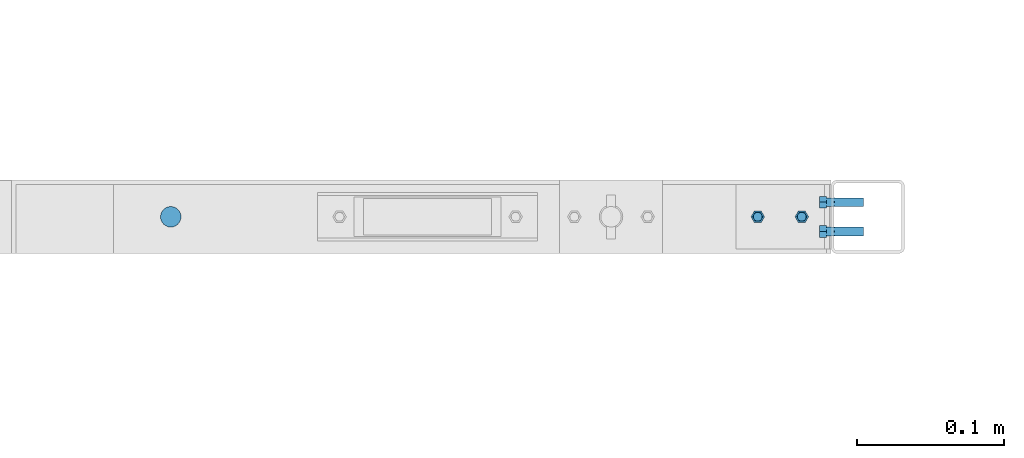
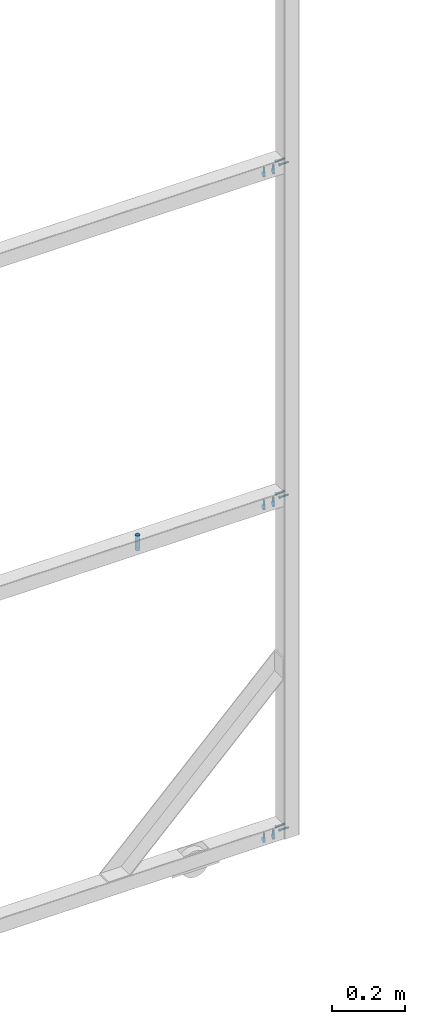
# One storey, part 59 of 91: 10 mechanical fasteners, 1 element without a shape of its own.
"""IFC2X3 building model written with IfcOpenShell, lengths in millimetres."""

from ifc_helpers import new_model, si_unit, frame, origin_with_axes, origin_2d_with_axis, place, context, subcontext, project, spatial, polyline, circle, outline, extrude, source, transform, mapped, material, type_object, element, aggregate, save


model = new_model("IFC2X3")

# Units and contexts
model_context = context("Model", 3, precision=1e-05, world=origin_with_axes())
body_context = subcontext(model_context, "Body", "Model", "MODEL_VIEW")
ifc_project = project(units=[si_unit("LENGTHUNIT", "METRE", prefix="MILLI"), si_unit("AREAUNIT", "SQUARE_METRE"), si_unit("VOLUMEUNIT", "CUBIC_METRE"), si_unit("MASSUNIT", "GRAM", prefix="KILO"), si_unit("TIMEUNIT", "SECOND"), si_unit("PLANEANGLEUNIT", "RADIAN"), si_unit("SOLIDANGLEUNIT", "STERADIAN"), si_unit("THERMODYNAMICTEMPERATUREUNIT", "DEGREE_CELSIUS"), si_unit("LUMINOUSINTENSITYUNIT", "LUMEN")], contexts=[model_context])

# Site, building, storey
site_placement = place(None, origin_with_axes())
site = spatial("IfcSite", under=ifc_project, at=site_placement, Name="Undefined", CompositionType="ELEMENT")
building_placement = place(site_placement, origin_with_axes())
building = spatial("IfcBuilding", under=site, at=building_placement, Name="Undefined", CompositionType="ELEMENT")
storey_placement = place(building_placement, origin_with_axes())
storey = spatial("IfcBuildingStorey", under=building, at=storey_placement, Name="Undefined", CompositionType="ELEMENT", Elevation=0.0)

# Assembly, mechanical fasteners
assembly_placement = place(storey_placement, origin_with_axes())
assembly = element("IfcElementAssembly", 1, at=assembly_placement, inside=storey, Name="Sliding Door Beam", AssemblyPlace="NOTDEFINED", PredefinedType="RIGID_FRAME")
ifc_material_1 = material(Name="TEK_11TPIM")
discrete_accessory_type = type_object("IfcDiscreteAccessoryType", Name="Bolt assembly")
shared_shape_1 = source(origin_with_axes(), body_context, "Body", "SweptSolid", [
    extrude(circle(Radius=3.0, at=origin_2d_with_axis()), frame((0.0, 6.10000000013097, 0.0), z_axis=(0.0, 1.0, 0.0), x_axis=(1.0, 0.0, 0.0)), (0.0, 0.0, 1.0), 3.0),
    extrude(circle(Radius=3.0, at=origin_2d_with_axis()), frame((0.0, 8.9, 0.0), z_axis=(0.0, 1.0, 0.0), x_axis=(1.0, 0.0, 0.0)), (0.0, 0.0, 1.0), 2.1),
    extrude(outline(polyline([(4.61880215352, 0.0), (2.30940107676, 4.00000000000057), (-2.30940107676, 4.00000000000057), (-4.61880215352, 0.0), (-2.30940107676, -4.00000000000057), (2.30940107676, -4.00000000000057), (4.61880215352, 0.0)])), frame((0.0, 1.00000000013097, 0.0), z_axis=(0.0, 1.0, 0.0), x_axis=(1.0, 0.0, 0.0)), (0.0, 0.0, 1.0), 5.0),
    extrude(circle(Radius=3.0, at=origin_2d_with_axis()), frame((0.0, 6.00000000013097, 0.0), z_axis=(0.0, 1.0, 0.0), x_axis=(1.0, 0.0, 0.0)), (0.0, 0.0, 1.0), 25.0),
    extrude(circle(Radius=3.0, at=origin_2d_with_axis()), frame((0.0, 11.0, 0.0), z_axis=(0.0, 1.0, 0.0), x_axis=(1.0, 0.0, 0.0)), (0.0, 0.0, 1.0), 0.1),
    extrude(outline(polyline([(3.46410161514, 0.0), (1.73205080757, 3.00000000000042), (-1.73205080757, 3.00000000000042), (-3.46410161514, 0.0), (-1.73205080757, -3.00000000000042), (1.73205080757, -3.00000000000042), (3.46410161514, 0.0)])), frame((0.0, 11.1000000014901, 0.0), z_axis=(0.0, 1.0, 0.0), x_axis=(1.0, 0.0, 0.0)), (0.0, 0.0, 1.0), 0.1),
])
mechanical_fastener_1_placement = place(assembly_placement, frame((-110610.29, 90380.0, 8.0), z_axis=(0.0, -1.0, 0.0), x_axis=(0.0, 0.0, -1.0)))
mechanical_fastener_1 = element("IfcMechanicalFastener", 2, at=mechanical_fastener_1_placement, type_object=discrete_accessory_type, material=ifc_material_1, Name="Bolt assembly", NominalDiameter=6.0, NominalLength=25.0, context=body_context, shape_type="MappedRepresentation", body=[
    mapped(shared_shape_1, transform((0.0, 0.0, 10.0))),
    mapped(shared_shape_1, transform((0.0, 0.0, -10.0))),
])
mechanical_fastener_2_placement = place(assembly_placement, frame((-110610.29, 90380.0, 1122.33666666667), z_axis=(0.0, -1.0, 0.0), x_axis=(0.0, 0.0, -1.0)))
mechanical_fastener_2 = element("IfcMechanicalFastener", 3, at=mechanical_fastener_2_placement, type_object=discrete_accessory_type, material=ifc_material_1, Name="Bolt assembly", NominalDiameter=6.0, NominalLength=25.0, context=body_context, shape_type="MappedRepresentation", body=[
    mapped(shared_shape_1, transform((0.0, 0.0, 10.0))),
    mapped(shared_shape_1, transform((0.0, 0.0, -10.0))),
])
mechanical_fastener_3_placement = place(assembly_placement, frame((-110610.29, 90380.0, 2236.66333333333), z_axis=(0.0, -1.0, 0.0), x_axis=(0.0, 0.0, -1.0)))
mechanical_fastener_3 = element("IfcMechanicalFastener", 4, at=mechanical_fastener_3_placement, type_object=discrete_accessory_type, material=ifc_material_1, Name="Bolt assembly", NominalDiameter=6.0, NominalLength=25.0, context=body_context, shape_type="MappedRepresentation", body=[
    mapped(shared_shape_1, transform((0.0, 0.0, 10.0))),
    mapped(shared_shape_1, transform((0.0, 0.0, -10.0))),
])
shared_shape_2 = source(origin_with_axes(), body_context, "Body", "SweptSolid", [
    extrude(circle(Radius=3.0, at=origin_2d_with_axis()), frame((0.0, 0.0, 0.0), z_axis=(0.0, 1.0, 0.0), x_axis=(1.0, 0.0, 0.0)), (0.0, 0.0, 1.0), 3.1),
])
mechanical_fastener_4_placement = place(assembly_placement, frame((-110621.29, 90380.0, -14.0), z_axis=(0.0, 1.0, 0.0), x_axis=(-1.0, 0.0, 0.0)))
mechanical_fastener_4 = element("IfcMechanicalFastener", 5, at=mechanical_fastener_4_placement, type_object=discrete_accessory_type, material=ifc_material_1, Name="Bolt assembly", NominalDiameter=6.0, NominalLength=8.0, context=body_context, shape_type="MappedRepresentation", body=[
    mapped(shared_shape_2, transform((0.0, 0.0, 0.0))),
    mapped(shared_shape_2, transform((30.0, 0.0, 0.0))),
])
mechanical_fastener_5_placement = place(assembly_placement, frame((-110621.29, 90380.0, 1100.33666666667), z_axis=(0.0, 1.0, 0.0), x_axis=(-1.0, 0.0, 0.0)))
mechanical_fastener_5 = element("IfcMechanicalFastener", 6, at=mechanical_fastener_5_placement, type_object=discrete_accessory_type, material=ifc_material_1, Name="Bolt assembly", NominalDiameter=6.0, NominalLength=8.0, context=body_context, shape_type="MappedRepresentation", body=[
    mapped(shared_shape_2, transform((0.0, 0.0, 0.0))),
    mapped(shared_shape_2, transform((30.0, 0.0, 0.0))),
])
mechanical_fastener_6_placement = place(assembly_placement, frame((-110621.29, 90380.0, 2214.66333333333), z_axis=(0.0, 1.0, 0.0), x_axis=(-1.0, 0.0, 0.0)))
mechanical_fastener_6 = element("IfcMechanicalFastener", 7, at=mechanical_fastener_6_placement, type_object=discrete_accessory_type, material=ifc_material_1, Name="Bolt assembly", NominalDiameter=6.0, NominalLength=8.0, context=body_context, shape_type="MappedRepresentation", body=[
    mapped(shared_shape_2, transform((0.0, 0.0, 0.0))),
    mapped(shared_shape_2, transform((30.0, 0.0, 0.0))),
])
shared_shape_3 = source(origin_with_axes(), body_context, "Body", "SweptSolid", [
    extrude(circle(Radius=3.0, at=origin_2d_with_axis()), frame((0.0, 0.1, 0.0), z_axis=(0.0, 1.0, 0.0), x_axis=(1.0, 0.0, 0.0)), (0.0, 0.0, 1.0), 2.0),
    extrude(circle(Radius=3.0, at=origin_2d_with_axis()), frame((0.0, 2.90000000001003, 0.0), z_axis=(0.0, 1.0, 0.0), x_axis=(1.0, 0.0, 0.0)), (0.0, 0.0, 1.0), 3.1),
    extrude(outline(polyline([(4.61880215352, 0.0), (2.30940107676, 4.00000000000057), (-2.30940107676, 4.00000000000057), (-4.61880215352, 0.0), (-2.30940107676, -4.00000000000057), (2.30940107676, -4.00000000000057), (4.61880215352, 0.0)])), frame((0.0, -5.0, 0.0), z_axis=(0.0, 1.0, 0.0), x_axis=(1.0, 0.0, 0.0)), (0.0, 0.0, 1.0), 5.0),
    extrude(circle(Radius=3.0, at=origin_2d_with_axis()), frame((0.0, 0.0, 0.0), z_axis=(0.0, 1.0, 0.0), x_axis=(1.0, 0.0, 0.0)), (0.0, 0.0, 1.0), 25.0),
    extrude(circle(Radius=3.0, at=origin_2d_with_axis()), frame((0.0, 6.00000000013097, 0.0), z_axis=(0.0, 1.0, 0.0), x_axis=(1.0, 0.0, 0.0)), (0.0, 0.0, 1.0), 0.1),
    extrude(outline(polyline([(3.46410161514, 0.0), (1.73205080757, 3.00000000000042), (-1.73205080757, 3.00000000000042), (-3.46410161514, 0.0), (-1.73205080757, -3.00000000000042), (1.73205080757, -3.00000000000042), (3.46410161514, 0.0)])), frame((0.0, 6.10000000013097, 0.0), z_axis=(0.0, 1.0, 0.0), x_axis=(1.0, 0.0, 0.0)), (0.0, 0.0, 1.0), 0.1),
])
mechanical_fastener_7_placement = place(assembly_placement, frame((-110621.29, 90380.0, -17.0), z_axis=(0.0, 1.0, 0.0), x_axis=(-1.0, 0.0, 0.0)))
mechanical_fastener_7 = element("IfcMechanicalFastener", 8, at=mechanical_fastener_7_placement, type_object=discrete_accessory_type, material=ifc_material_1, Name="Bolt assembly", NominalDiameter=6.0, NominalLength=25.0, context=body_context, shape_type="MappedRepresentation", body=[
    mapped(shared_shape_3, transform((0.0, 0.0, 0.0))),
    mapped(shared_shape_3, transform((30.0, 0.0, 0.0))),
])
mechanical_fastener_8_placement = place(assembly_placement, frame((-110621.29, 90380.0, 1097.33666666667), z_axis=(0.0, 1.0, 0.0), x_axis=(-1.0, 0.0, 0.0)))
mechanical_fastener_8 = element("IfcMechanicalFastener", 9, at=mechanical_fastener_8_placement, type_object=discrete_accessory_type, material=ifc_material_1, Name="Bolt assembly", NominalDiameter=6.0, NominalLength=25.0, context=body_context, shape_type="MappedRepresentation", body=[
    mapped(shared_shape_3, transform((0.0, 0.0, 0.0))),
    mapped(shared_shape_3, transform((30.0, 0.0, 0.0))),
])
mechanical_fastener_9_placement = place(assembly_placement, frame((-110621.29, 90380.0, 2211.66333333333), z_axis=(0.0, 1.0, 0.0), x_axis=(-1.0, 0.0, 0.0)))
mechanical_fastener_9 = element("IfcMechanicalFastener", 10, at=mechanical_fastener_9_placement, type_object=discrete_accessory_type, material=ifc_material_1, Name="Bolt assembly", NominalDiameter=6.0, NominalLength=25.0, context=body_context, shape_type="MappedRepresentation", body=[
    mapped(shared_shape_3, transform((0.0, 0.0, 0.0))),
    mapped(shared_shape_3, transform((30.0, 0.0, 0.0))),
])
ifc_material_2 = material(Name="8.8S")
shared_shape_4 = source(origin_with_axes(), body_context, "Body", "SweptSolid", [
    extrude(circle(Radius=7.0, at=origin_2d_with_axis()), frame((0.0, 0.0033333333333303, 0.0), z_axis=(0.0, 1.0, 0.0), x_axis=(1.0, 0.0, 0.0)), (0.0, 0.0, 1.0), 50.1),
])
mechanical_fastener_10_placement = place(assembly_placement, frame((-111051.293767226, 90380.0, 1147.34), z_axis=(1.0, 0.0, 0.0), x_axis=(0.0, -1.0, 0.0)))
mechanical_fastener_10 = element("IfcMechanicalFastener", 11, at=mechanical_fastener_10_placement, type_object=discrete_accessory_type, material=ifc_material_2, Name="Bolt assembly", NominalDiameter=12.0, NominalLength=49.9966659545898, context=body_context, shape_type="MappedRepresentation", body=[
    mapped(shared_shape_4, transform((0.0, 0.0, 0.0))),
])
aggregate(assembly, [mechanical_fastener_1, mechanical_fastener_4, mechanical_fastener_7, mechanical_fastener_2, mechanical_fastener_5, mechanical_fastener_8, mechanical_fastener_3, mechanical_fastener_6, mechanical_fastener_9, mechanical_fastener_10])

save(model, "model.ifc")
